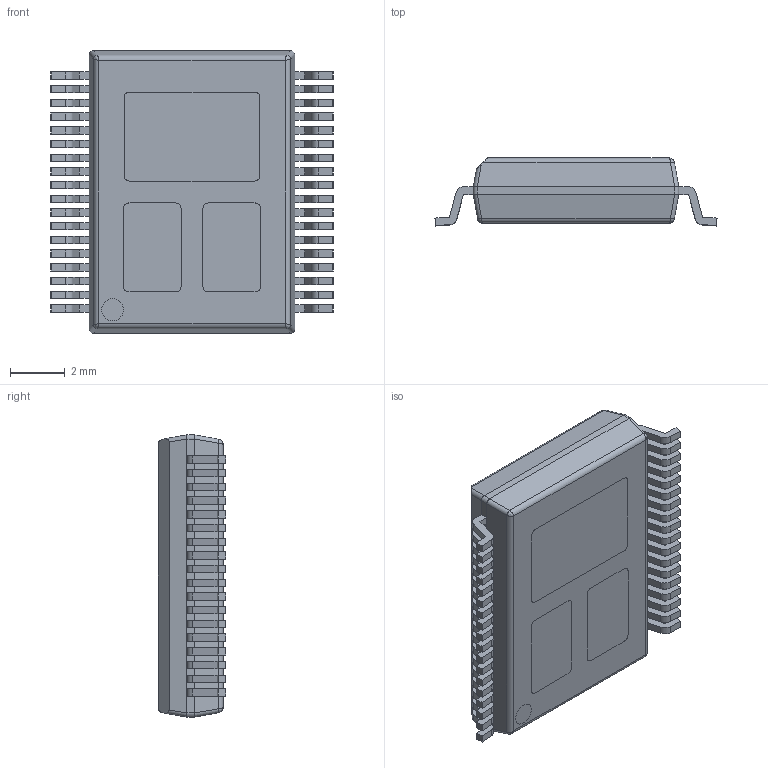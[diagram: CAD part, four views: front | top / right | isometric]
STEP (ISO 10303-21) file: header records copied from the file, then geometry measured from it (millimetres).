
FILE_DESCRIPTION (( 'STEP AP214' ), '1' );
FILE_NAME ('VNH7040AYTR.STEP', '2024-02-01T10:57:04', ( 'LENOVO' ), ( '' ), 'SwSTEP 2.0', 'SolidWorks 2021', '' );
FILE_SCHEMA (( 'AUTOMOTIVE_DESIGN' ));
Length unit declared in the file: millimetre
Products named in the file (1): VNH7040AYTR
Bounding box: 10.3 x 2.47 x 10.3 mm (x, y, z)
Volume: 180.9 mm3; surface area: 381.8 mm2
Topology: 42 solids, 42 shells, 621 faces, 1578 edges, 1042 vertices
Faces by surface type: plane 416, cylinder 199, bspline 6
Entity records: 19125 total; most frequent: CARTESIAN_POINT 3494, ORIENTED_EDGE 3144, DIRECTION 3130, EDGE_CURVE 1572, LINE 1166, VECTOR 1166, VERTEX_POINT 1042, AXIS2_PLACEMENT_3D 982
